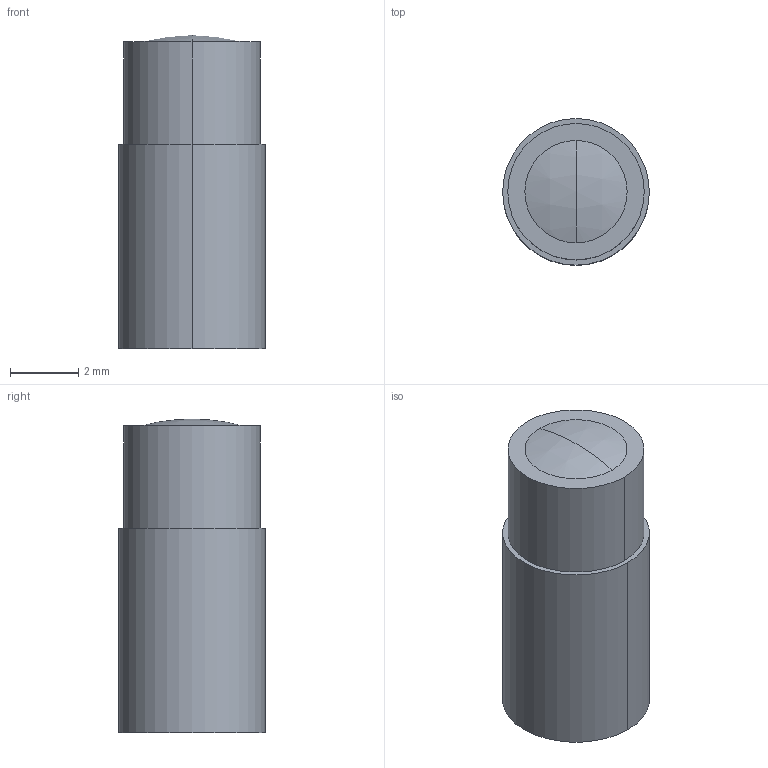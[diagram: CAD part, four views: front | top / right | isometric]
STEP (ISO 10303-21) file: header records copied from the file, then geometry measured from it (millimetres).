
FILE_DESCRIPTION (( 'STEP AP203' ), '1' );
FILE_NAME ('FX-LE1.STEP', '2005-09-08T02:43:44', ( '' ), ( '' ), 'SwSTEP 2.0', 'SolidWorks 2004073', '' );
FILE_SCHEMA (( 'CONFIG_CONTROL_DESIGN' ));
Length unit declared in the file: millimetre
Products named in the file (1): FX-LE1
Bounding box: 4.3 x 4.3 x 9.2 mm (x, y, z)
Volume: 97.9 mm3; surface area: 190.4 mm2
Topology: 1 solids, 1 shells, 12 faces, 22 edges, 15 vertices
Faces by surface type: cylinder 6, plane 4, sphere 2
Entity records: 387 total; most frequent: DIRECTION 64, CARTESIAN_POINT 50, ORIENTED_EDGE 44, AXIS2_PLACEMENT_3D 29, EDGE_CURVE 22, CIRCLE 16, EDGE_LOOP 15, VERTEX_POINT 15
